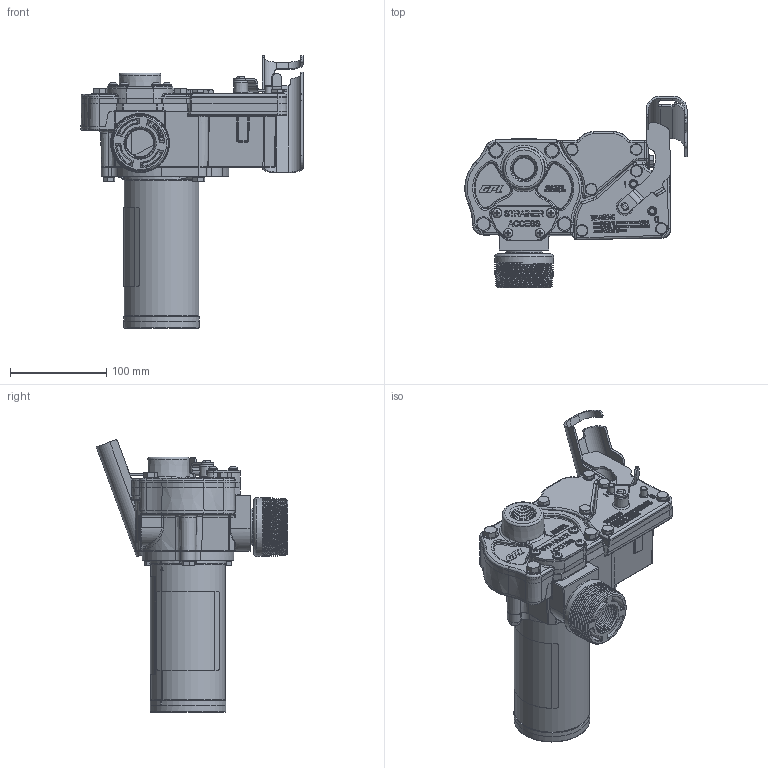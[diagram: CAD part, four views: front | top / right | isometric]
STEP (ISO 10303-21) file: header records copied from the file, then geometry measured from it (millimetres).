
FILE_DESCRIPTION(/* description */ (''),/* implementation_level */ '2;1');
FILE_NAME(/* name */ 'C:\Vault Projects\GPI Eng\New Projects\DHarris\Website model updates\STEP\M-150S-E-PO.stp',/* time_stamp */ '2022-07-18T16:20:14-05:00',/* author */ ('gdanhar'),/* organization */ (''),/* preprocessor_version */ 'ST-DEVELOPER v18.1',/* originating_system */ 'Autodesk Inventor 2022',/* authorisation */ '');
FILE_SCHEMA (('AUTOMOTIVE_DESIGN { 1 0 10303 214 3 1 1 }'));
Length unit declared in the file: inch
Products named in the file (1): M-150S-E-PO
Bounding box: 231.26 x 199.33 x 283.33 mm (x, y, z)
Volume: 2266189 mm3; surface area: 242777.5 mm2
Topology: 5 solids, 21 shells, 4625 faces, 11993 edges, 7609 vertices
Faces by surface type: plane 2097, bspline 1027, cylinder 710, torus 390, cone 339, sphere 62
Full cylindrical faces by diameter (mm): 0.001 x1, 1.542 x1, 3.048 x1, 3.2 x2, 4.826 x5, 4.898 x3, 5.105 x2, 5.207 x2, 5.728 x1, 6.35 x4, 6.604 x1, 7.931 x1, 7.938 x1, 9.474 x4, 9.728 x4, 11.125 x6, 11.989 x6, 12.141 x3, 12.7 x2, 15.494 x4, 19.007 x1, 19.05 x1, 23.673 x3, 37.846 x1, 71.069 x1, 75.387 x1, 77.953 x1
Entity records: 188052 total; most frequent: CARTESIAN_POINT 77372, ORIENTED_EDGE 23840, DIRECTION 18987, EDGE_CURVE 11920, VERTEX_POINT 7583, LINE 6403, VECTOR 6403, AXIS2_PLACEMENT_3D 6292
